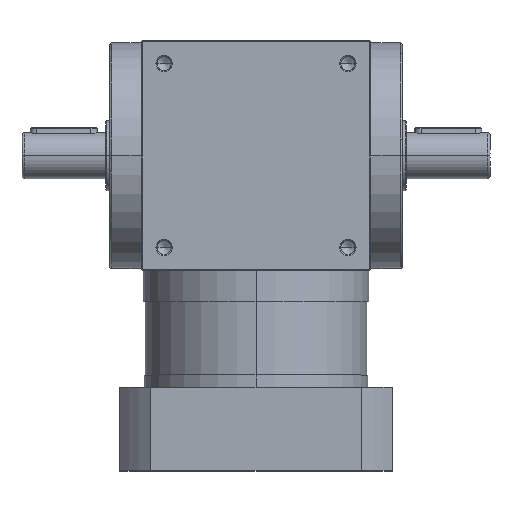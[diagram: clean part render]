
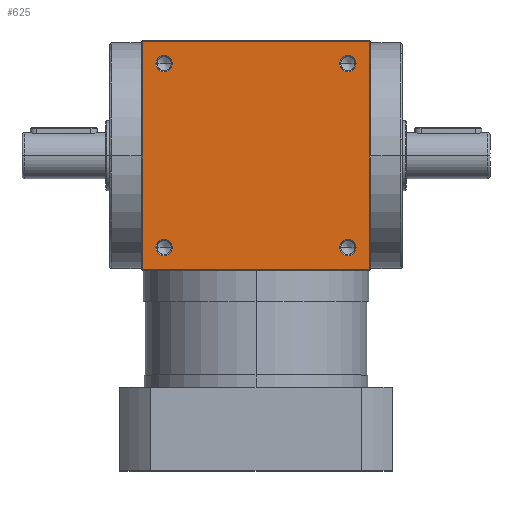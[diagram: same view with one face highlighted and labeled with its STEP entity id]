
A CAD part, top view. The second image highlights one B-rep face of the part: STEP entity #625.
In plain terms, the highlighted planar face has unit normal (0, 0, 1).
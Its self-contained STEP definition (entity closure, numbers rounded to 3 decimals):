
#86 = DIRECTION ( 'NONE',  ( 0., -1., 0. ) ) ;
#87 = DIRECTION ( 'NONE',  ( 1., 0., 0. ) ) ;
#115 = VERTEX_POINT ( 'NONE', #5021 ) ;
#222 = EDGE_LOOP ( 'NONE', ( #2402, #4659, #7817, #9629 ) ) ;
#330 = VERTEX_POINT ( 'NONE', #10211 ) ;
#378 = EDGE_CURVE ( 'NONE', #3173, #1887, #8798, .T. ) ;
#393 = VERTEX_POINT ( 'NONE', #6893 ) ;
#434 = CARTESIAN_POINT ( 'NONE',  ( -44., 47.9, 55. ) ) ;
#625 = ADVANCED_FACE ( 'NONE', ( #8915, #3338, #7931, #851, #1858 ), #5545, .F. ) ;
#647 = ORIENTED_EDGE ( 'NONE', *, *, #378, .F. ) ;
#851 = FACE_BOUND ( 'NONE', #1354, .T. ) ;
#860 = CIRCLE ( 'NONE', #5644, 3.9 ) ;
#1066 = VERTEX_POINT ( 'NONE', #7590 ) ;
#1206 = CARTESIAN_POINT ( 'NONE',  ( 0., -54.5, 55. ) ) ;
#1237 = CARTESIAN_POINT ( 'NONE',  ( -44., 44., 55. ) ) ;
#1286 = DIRECTION ( 'NONE',  ( 0., 0., -1. ) ) ;
#1354 = EDGE_LOOP ( 'NONE', ( #10793, #7715 ) ) ;
#1397 = CARTESIAN_POINT ( 'NONE',  ( 44., 44., 55. ) ) ;
#1748 = CARTESIAN_POINT ( 'NONE',  ( -44., -44., 55. ) ) ;
#1763 = EDGE_CURVE ( 'NONE', #393, #8279, #9194, .T. ) ;
#1834 = VERTEX_POINT ( 'NONE', #4878 ) ;
#1844 = CARTESIAN_POINT ( 'NONE',  ( 54.5, 54.5, 55. ) ) ;
#1858 = FACE_OUTER_BOUND ( 'NONE', #222, .T. ) ;
#1887 = VERTEX_POINT ( 'NONE', #2988 ) ;
#1903 = ORIENTED_EDGE ( 'NONE', *, *, #1763, .F. ) ;
#1951 = LINE ( 'NONE', #1206, #8496 ) ;
#2038 = DIRECTION ( 'NONE',  ( -1., 0., 0. ) ) ;
#2084 = DIRECTION ( 'NONE',  ( 0., -1., 0. ) ) ;
#2237 = DIRECTION ( 'NONE',  ( 1., 0., 0. ) ) ;
#2322 = CARTESIAN_POINT ( 'NONE',  ( 44., -44., 55. ) ) ;
#2367 = CIRCLE ( 'NONE', #3929, 3.9 ) ;
#2402 = ORIENTED_EDGE ( 'NONE', *, *, #8183, .F. ) ;
#2594 = DIRECTION ( 'NONE',  ( 0., -1., 0. ) ) ;
#2624 = AXIS2_PLACEMENT_3D ( 'NONE', #1237, #7227, #2084 ) ;
#2737 = EDGE_CURVE ( 'NONE', #3152, #1834, #11067, .T. ) ;
#2915 = ORIENTED_EDGE ( 'NONE', *, *, #10360, .F. ) ;
#2936 = EDGE_LOOP ( 'NONE', ( #1903, #2915 ) ) ;
#2988 = CARTESIAN_POINT ( 'NONE',  ( -44., -47.9, 55. ) ) ;
#3074 = EDGE_LOOP ( 'NONE', ( #9358, #647 ) ) ;
#3152 = VERTEX_POINT ( 'NONE', #3886 ) ;
#3170 = DIRECTION ( 'NONE',  ( 0., -1., 0. ) ) ;
#3173 = VERTEX_POINT ( 'NONE', #5687 ) ;
#3194 = AXIS2_PLACEMENT_3D ( 'NONE', #6430, #1286, #7270 ) ;
#3338 = FACE_BOUND ( 'NONE', #8541, .T. ) ;
#3423 = AXIS2_PLACEMENT_3D ( 'NONE', #1748, #7736, #2594 ) ;
#3439 = VECTOR ( 'NONE', #3871, 1000. ) ;
#3871 = DIRECTION ( 'NONE',  ( 0., -1., 0. ) ) ;
#3886 = CARTESIAN_POINT ( 'NONE',  ( -54.5, -54.5, 55. ) ) ;
#3929 = AXIS2_PLACEMENT_3D ( 'NONE', #10316, #5253, #86 ) ;
#4107 = DIRECTION ( 'NONE',  ( 0., 0., 1. ) ) ;
#4114 = AXIS2_PLACEMENT_3D ( 'NONE', #1397, #7372, #2237 ) ;
#4190 = CARTESIAN_POINT ( 'NONE',  ( -44., -44., 55. ) ) ;
#4617 = EDGE_CURVE ( 'NONE', #1887, #3173, #10227, .T. ) ;
#4659 = ORIENTED_EDGE ( 'NONE', *, *, #6939, .F. ) ;
#4768 = EDGE_CURVE ( 'NONE', #5868, #9337, #5302, .T. ) ;
#4878 = CARTESIAN_POINT ( 'NONE',  ( -54.5, 54.5, 55. ) ) ;
#5021 = CARTESIAN_POINT ( 'NONE',  ( 44., -40.1, 55. ) ) ;
#5089 = DIRECTION ( 'NONE',  ( 0., -1., 0. ) ) ;
#5190 = ORIENTED_EDGE ( 'NONE', *, *, #9517, .F. ) ;
#5253 = DIRECTION ( 'NONE',  ( 0., 0., 1. ) ) ;
#5254 = DIRECTION ( 'NONE',  ( 0., 0., 1. ) ) ;
#5302 = CIRCLE ( 'NONE', #10178, 3.9 ) ;
#5328 = AXIS2_PLACEMENT_3D ( 'NONE', #9201, #4107, #10075 ) ;
#5545 = PLANE ( 'NONE',  #3194 ) ;
#5644 = AXIS2_PLACEMENT_3D ( 'NONE', #2322, #8291, #3170 ) ;
#5687 = CARTESIAN_POINT ( 'NONE',  ( -44., -40.1, 55. ) ) ;
#5868 = VERTEX_POINT ( 'NONE', #10149 ) ;
#6277 = CARTESIAN_POINT ( 'NONE',  ( -54.5, 0., 55. ) ) ;
#6416 = CARTESIAN_POINT ( 'NONE',  ( 54.5, 0., 55. ) ) ;
#6430 = CARTESIAN_POINT ( 'NONE',  ( 0., 0., 55. ) ) ;
#6787 = AXIS2_PLACEMENT_3D ( 'NONE', #4190, #10168, #5089 ) ;
#6893 = CARTESIAN_POINT ( 'NONE',  ( -44., 40.1, 55. ) ) ;
#6939 = EDGE_CURVE ( 'NONE', #7737, #1066, #7198, .T. ) ;
#7053 = CARTESIAN_POINT ( 'NONE',  ( 0., 54.5, 55. ) ) ;
#7119 = DIRECTION ( 'NONE',  ( 0., 1., 0. ) ) ;
#7198 = LINE ( 'NONE', #6416, #3439 ) ;
#7227 = DIRECTION ( 'NONE',  ( 0., 0., 1. ) ) ;
#7270 = DIRECTION ( 'NONE',  ( -1., 0., 0. ) ) ;
#7303 = CIRCLE ( 'NONE', #4114, 3.9 ) ;
#7315 = VECTOR ( 'NONE', #7908, 1000. ) ;
#7372 = DIRECTION ( 'NONE',  ( 0., 0., 1. ) ) ;
#7590 = CARTESIAN_POINT ( 'NONE',  ( 54.5, -54.5, 55. ) ) ;
#7715 = ORIENTED_EDGE ( 'NONE', *, *, #8704, .F. ) ;
#7716 = EDGE_CURVE ( 'NONE', #330, #115, #2367, .T. ) ;
#7736 = DIRECTION ( 'NONE',  ( 0., 0., 1. ) ) ;
#7737 = VERTEX_POINT ( 'NONE', #1844 ) ;
#7817 = ORIENTED_EDGE ( 'NONE', *, *, #9390, .T. ) ;
#7908 = DIRECTION ( 'NONE',  ( -1., 0., 0. ) ) ;
#7931 = FACE_BOUND ( 'NONE', #3074, .T. ) ;
#8183 = EDGE_CURVE ( 'NONE', #1066, #3152, #1951, .T. ) ;
#8204 = CIRCLE ( 'NONE', #2624, 3.9 ) ;
#8279 = VERTEX_POINT ( 'NONE', #434 ) ;
#8291 = DIRECTION ( 'NONE',  ( 0., 0., 1. ) ) ;
#8322 = ORIENTED_EDGE ( 'NONE', *, *, #4768, .F. ) ;
#8496 = VECTOR ( 'NONE', #2038, 1000. ) ;
#8541 = EDGE_LOOP ( 'NONE', ( #8322, #5190 ) ) ;
#8704 = EDGE_CURVE ( 'NONE', #115, #330, #860, .T. ) ;
#8798 = CIRCLE ( 'NONE', #3423, 3.9 ) ;
#8915 = FACE_BOUND ( 'NONE', #2936, .T. ) ;
#9194 = CIRCLE ( 'NONE', #5328, 3.9 ) ;
#9201 = CARTESIAN_POINT ( 'NONE',  ( -44., 44., 55. ) ) ;
#9337 = VERTEX_POINT ( 'NONE', #9409 ) ;
#9358 = ORIENTED_EDGE ( 'NONE', *, *, #4617, .F. ) ;
#9390 = EDGE_CURVE ( 'NONE', #7737, #1834, #9556, .T. ) ;
#9409 = CARTESIAN_POINT ( 'NONE',  ( 40.1, 44., 55. ) ) ;
#9517 = EDGE_CURVE ( 'NONE', #9337, #5868, #7303, .T. ) ;
#9556 = LINE ( 'NONE', #7053, #7315 ) ;
#9629 = ORIENTED_EDGE ( 'NONE', *, *, #2737, .F. ) ;
#10075 = DIRECTION ( 'NONE',  ( 0., -1., 0. ) ) ;
#10149 = CARTESIAN_POINT ( 'NONE',  ( 47.9, 44., 55. ) ) ;
#10168 = DIRECTION ( 'NONE',  ( 0., 0., 1. ) ) ;
#10178 = AXIS2_PLACEMENT_3D ( 'NONE', #10317, #5254, #87 ) ;
#10211 = CARTESIAN_POINT ( 'NONE',  ( 44., -47.9, 55. ) ) ;
#10227 = CIRCLE ( 'NONE', #6787, 3.9 ) ;
#10316 = CARTESIAN_POINT ( 'NONE',  ( 44., -44., 55. ) ) ;
#10317 = CARTESIAN_POINT ( 'NONE',  ( 44., 44., 55. ) ) ;
#10360 = EDGE_CURVE ( 'NONE', #8279, #393, #8204, .T. ) ;
#10405 = VECTOR ( 'NONE', #7119, 1000. ) ;
#10793 = ORIENTED_EDGE ( 'NONE', *, *, #7716, .F. ) ;
#11067 = LINE ( 'NONE', #6277, #10405 ) ;
